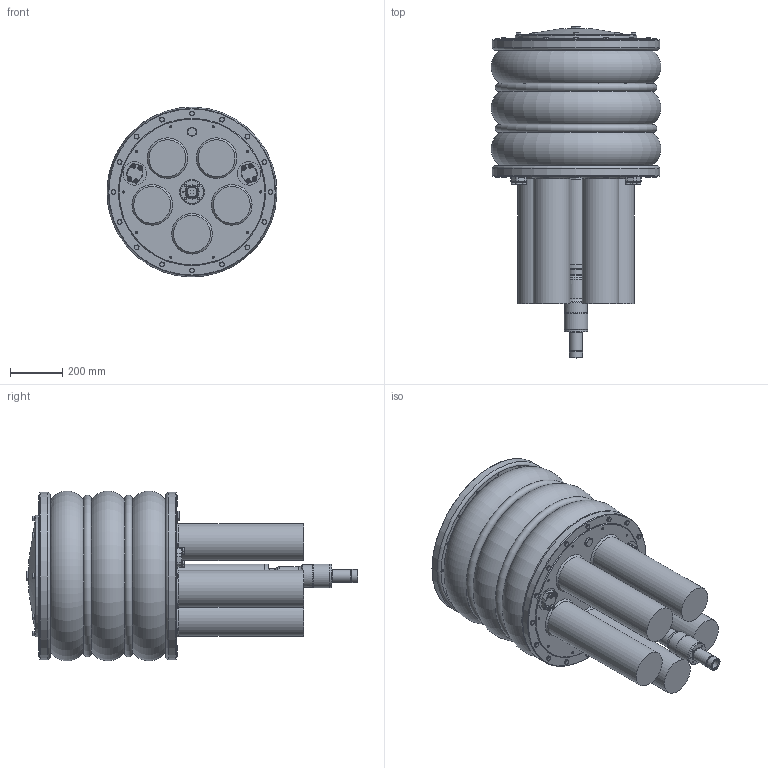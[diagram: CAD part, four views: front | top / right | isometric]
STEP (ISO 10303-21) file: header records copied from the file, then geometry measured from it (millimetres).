
FILE_DESCRIPTION(/* description */ ('Main assembly'),/* implementation_level */ '2;1');
FILE_NAME(/* name */ 'C:\Users\Mathijs\Desktop\Steps\ME-0271-1101-Full.stp',/* time_stamp */ '2018-02-15T14:08:53+01:00',/* author */ ('Mathijs'),/* organization */ ('Seatools'),/* preprocessor_version */ 'ST-DEVELOPER v16.1',/* originating_system */ 'Autodesk Inventor 2016',/* authorisation */ '');
FILE_SCHEMA (('AUTOMOTIVE_DESIGN { 1 0 10303 214 3 1 1 }'));
Length unit declared in the file: millimetre
Products named in the file (1): ME-0271-1101-Full
Bounding box: 649.67 x 1270.5 x 649.81 mm (x, y, z)
Volume: 209555775.1 mm3; surface area: 3431399.6 mm2
Topology: 1 solids, 1 shells, 1156 faces, 2526 edges, 1572 vertices
Faces by surface type: plane 540, cone 331, cylinder 232, torus 45, sphere 8
Full cylindrical faces by diameter (mm): 3 x4, 4.917 x1, 6.5 x4, 6.647 x6, 8 x1, 8.376 x42, 9 x4, 9.188 x8, 10 x16, 10.5 x8, 11 x8, 13 x1, 15.4 x40, 16 x8, 17 x8, 29 x2, 30 x2, 36 x1, 44.201 x1, 50 x2, 55 x1, 70 x1, 87 x1, 89 x1, 90 x5, 141.3 x5, 465 x1, 640 x2
Entity records: 29390 total; most frequent: CARTESIAN_POINT 5942, DIRECTION 4636, ORIENTED_EDGE 4176, EDGE_CURVE 2088, AXIS2_PLACEMENT_3D 1961, EDGE_LOOP 1669, VERTEX_POINT 1447, STYLED_ITEM 1157
